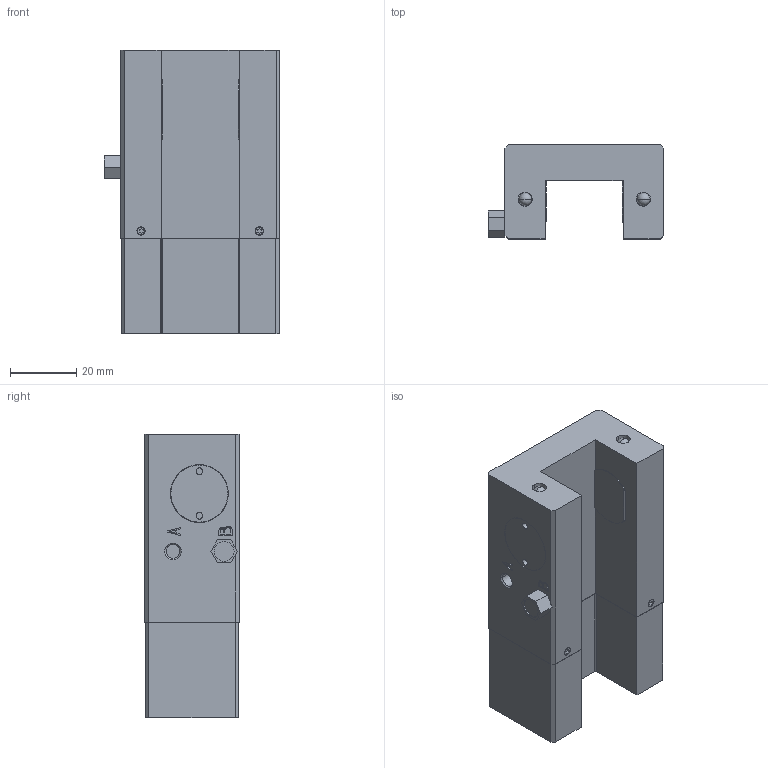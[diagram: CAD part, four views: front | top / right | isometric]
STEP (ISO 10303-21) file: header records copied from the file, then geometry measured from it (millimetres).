
FILE_DESCRIPTION( ( '' ), '1' );
FILE_NAME( 'E:/04 嬴檜蠱滌/0404 ZIMMER/040414 ZIMMER CAD download/LKPS/LKPS2501AS2---.stp', '2020-04-16T09:47:15', ( '' ), ( '' ), ' ', ' ', ' ' );
FILE_SCHEMA( ( 'automotive_design' ) );
Length unit declared in the file: millimetre
Products named in the file (1): 1
Bounding box: 53 x 28.5 x 85.9 mm (x, y, z)
Volume: 80172.8 mm3; surface area: 19789.6 mm2
Topology: 1 solids, 2 shells, 289 faces, 688 edges, 452 vertices
Faces by surface type: plane 183, cylinder 82, cone 16, sphere 4, torus 4
Entity records: 16344 total; most frequent: DIRECTION 1472, STYLED_ITEM 1426, PRESENTATION_STYLE_ASSIGNMENT 1426, CARTESIAN_POINT 1426, COLOUR_RGB 1426, ORIENTED_EDGE 1368, EDGE_CURVE 684, CURVE_STYLE 684
